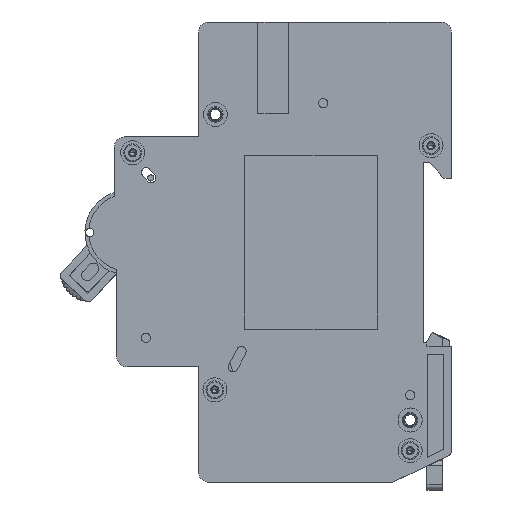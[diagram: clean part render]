
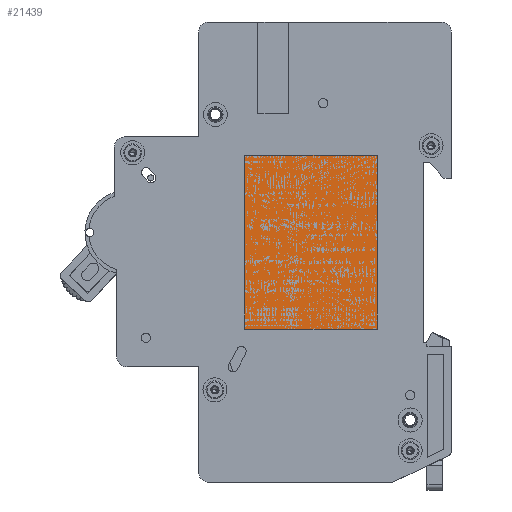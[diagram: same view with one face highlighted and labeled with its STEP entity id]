
A CAD part, left-side view. The second image highlights one B-rep face of the part: STEP entity #21439.
In plain terms, the highlighted planar face has unit normal (-1, 0, 0) as drawn and (0, 0, -1) by its records, which use the part's own axes.
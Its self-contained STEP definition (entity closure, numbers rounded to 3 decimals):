
#99 = DIRECTION ( 'NONE',  ( 1., 0., 0. ) ) ;
#862 = CARTESIAN_POINT ( 'NONE',  ( 0., 0., 0. ) ) ;
#1866 = EDGE_CURVE ( 'NONE', #7044, #19356, #38869, .T. ) ;
#3788 = ORIENTED_EDGE ( 'NONE', *, *, #1866, .F. ) ;
#4063 = CARTESIAN_POINT ( 'NONE',  ( 0., 26., 0. ) ) ;
#6081 = EDGE_CURVE ( 'NONE', #33652, #37814, #45108, .T. ) ;
#7044 = VERTEX_POINT ( 'NONE', #44872 ) ;
#8877 = DIRECTION ( 'NONE',  ( 0., 0., -1. ) ) ;
#10077 = EDGE_CURVE ( 'NONE', #37814, #7044, #25133, .T. ) ;
#10338 = DIRECTION ( 'NONE',  ( 0., 1., 0. ) ) ;
#11733 = ORIENTED_EDGE ( 'NONE', *, *, #27117, .F. ) ;
#18211 = FACE_OUTER_BOUND ( 'NONE', #29681, .T. ) ;
#18398 = VECTOR ( 'NONE', #38264, 1000. ) ;
#19356 = VERTEX_POINT ( 'NONE', #27466 ) ;
#20600 = CARTESIAN_POINT ( 'NONE',  ( 0., 0., 0. ) ) ;
#21439 = ADVANCED_FACE ( 'NONE', ( #18211 ), #24574, .T. ) ;
#24022 = VECTOR ( 'NONE', #48542, 1000. ) ;
#24574 = PLANE ( 'NONE',  #34389 ) ;
#25133 = LINE ( 'NONE', #31603, #45573 ) ;
#27117 = EDGE_CURVE ( 'NONE', #19356, #33652, #35719, .T. ) ;
#27466 = CARTESIAN_POINT ( 'NONE',  ( 34., 26., 0. ) ) ;
#29681 = EDGE_LOOP ( 'NONE', ( #37292, #11733, #3788, #39597 ) ) ;
#30632 = CARTESIAN_POINT ( 'NONE',  ( 0., 26., 0. ) ) ;
#31603 = CARTESIAN_POINT ( 'NONE',  ( 0., 0., 0. ) ) ;
#33652 = VERTEX_POINT ( 'NONE', #4063 ) ;
#34389 = AXIS2_PLACEMENT_3D ( 'NONE', #862, #8877, #37221 ) ;
#35719 = LINE ( 'NONE', #30632, #18398 ) ;
#37221 = DIRECTION ( 'NONE',  ( 0., -1., 0. ) ) ;
#37292 = ORIENTED_EDGE ( 'NONE', *, *, #6081, .F. ) ;
#37814 = VERTEX_POINT ( 'NONE', #50521 ) ;
#38264 = DIRECTION ( 'NONE',  ( -1., 0., 0. ) ) ;
#38869 = LINE ( 'NONE', #45636, #41376 ) ;
#39597 = ORIENTED_EDGE ( 'NONE', *, *, #10077, .F. ) ;
#41376 = VECTOR ( 'NONE', #10338, 1000. ) ;
#44872 = CARTESIAN_POINT ( 'NONE',  ( 34., 0., 0. ) ) ;
#45108 = LINE ( 'NONE', #20600, #24022 ) ;
#45573 = VECTOR ( 'NONE', #99, 1000. ) ;
#45636 = CARTESIAN_POINT ( 'NONE',  ( 34., 0., 0. ) ) ;
#48542 = DIRECTION ( 'NONE',  ( 0., -1., 0. ) ) ;
#50521 = CARTESIAN_POINT ( 'NONE',  ( 0., 0., 0. ) ) ;
